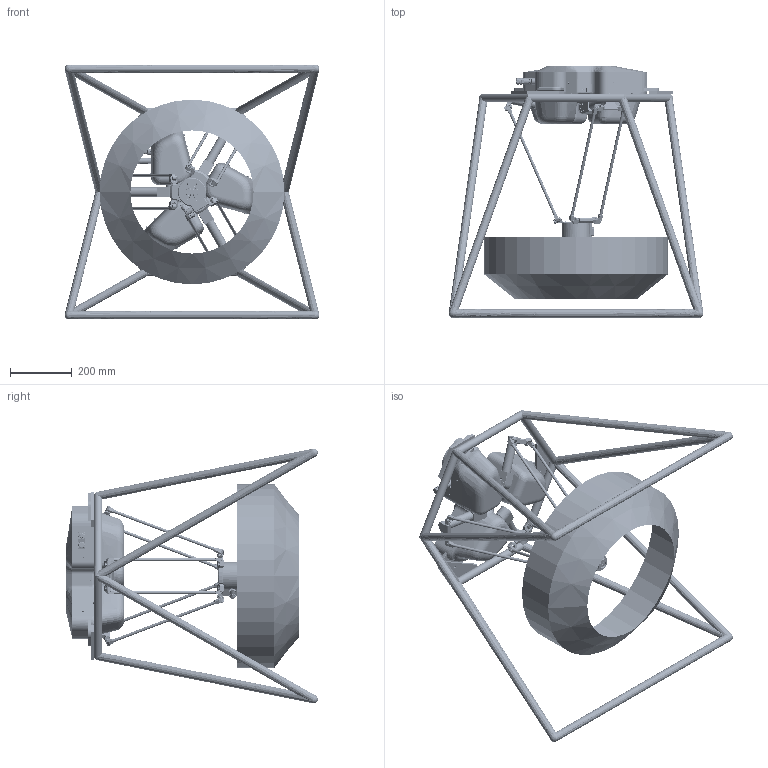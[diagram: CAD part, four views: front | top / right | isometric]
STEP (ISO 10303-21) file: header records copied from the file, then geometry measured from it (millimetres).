
FILE_DESCRIPTION((''),'2;1');
FILE_NAME('ZRC-0306R_FRAME_ASM','2022-05-11T16:12:59',('SonJeongWon'),(''),'CREO PARAMETRIC BY PTC INC, 2020354','CREO PARAMETRIC BY PTC INC, 2020354','');
FILE_SCHEMA(('CONFIG_CONTROL_DESIGN'));
Length unit declared in the file: millimetre
Products named in the file (5): ZRC-0306R_STP; M9030801; M9030901; A9005401_ASM; ZRC-0306R_FRAME_ASM
Assembly tree (6 placements, depth 3):
  ZRC-0306R_FRAME_ASM
    ZRC-0306R_STP
    A9005401_ASM
      M9030801
      M9030901  x3
Bounding box: 827.11 x 817.2 x 827.2 mm (x, y, z)
Volume: 4786569 mm3; surface area: 3323634.9 mm2
Topology: 28 solids, 49 shells, 7106 faces, 18210 edges, 11215 vertices
Faces by surface type: plane 3291, cylinder 1671, cone 1122, bspline 613, torus 341, extrusion 25, revolution 24, sphere 19
Entity records: 382192 total; most frequent: CARTESIAN_POINT 216474, ORIENTED_EDGE 35912, DIRECTION 32574, EDGE_CURVE 17964, AXIS2_PLACEMENT_3D 11998, VERTEX_POINT 11163, VECTOR 8554, LINE 8529
